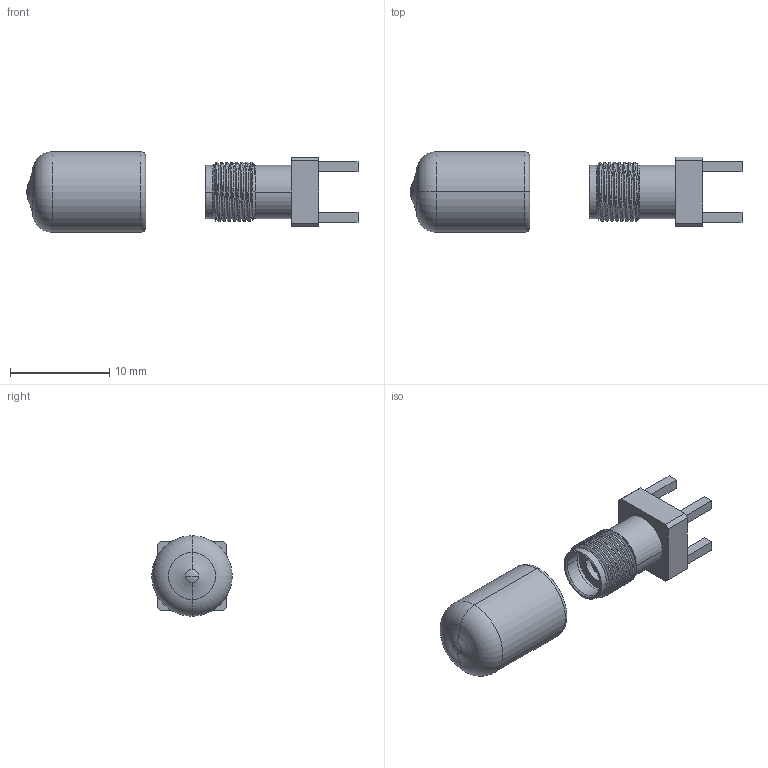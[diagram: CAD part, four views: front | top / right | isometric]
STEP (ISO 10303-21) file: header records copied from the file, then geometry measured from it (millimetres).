
FILE_DESCRIPTION (( 'STEP AP203' ), '1' );
FILE_NAME ('61-20018-12040B.STEP', '2018-09-28T01:56:24', ( '' ), ( '' ), 'SwSTEP 2.0', 'SolidWorks 2015', '' );
FILE_SCHEMA (( 'CONFIG_CONTROL_DESIGN' ));
Length unit declared in the file: millimetre
Products named in the file (8): 61-20018-12040B; 101-2209-123040A; 101-2200-123040B; 103-1508-226050B; 103-1500-226080C; 102-1161-700000C; 102-1206-700000B; 108-0063-900000B
Assembly tree (7 placements, depth 2):
  61-20018-12040B
    101-2209-123040A
    101-2200-123040B
    103-1508-226050B
    103-1500-226080C
    102-1161-700000C
    102-1206-700000B
    108-0063-900000B
Bounding box: 33.42 x 8.1 x 8.1 mm (x, y, z)
Volume: 565.2 mm3; surface area: 1362.4 mm2
Topology: 7 solids, 7 shells, 292 faces, 691 edges, 431 vertices
Faces by surface type: cylinder 99, plane 83, cone 81, torus 22, sphere 5, bspline 2
Entity records: 11553 total; most frequent: CARTESIAN_POINT 4020, DIRECTION 1442, ORIENTED_EDGE 1378, EDGE_CURVE 689, AXIS2_PLACEMENT_3D 600, VERTEX_POINT 431, EDGE_LOOP 332, CIRCLE 300
